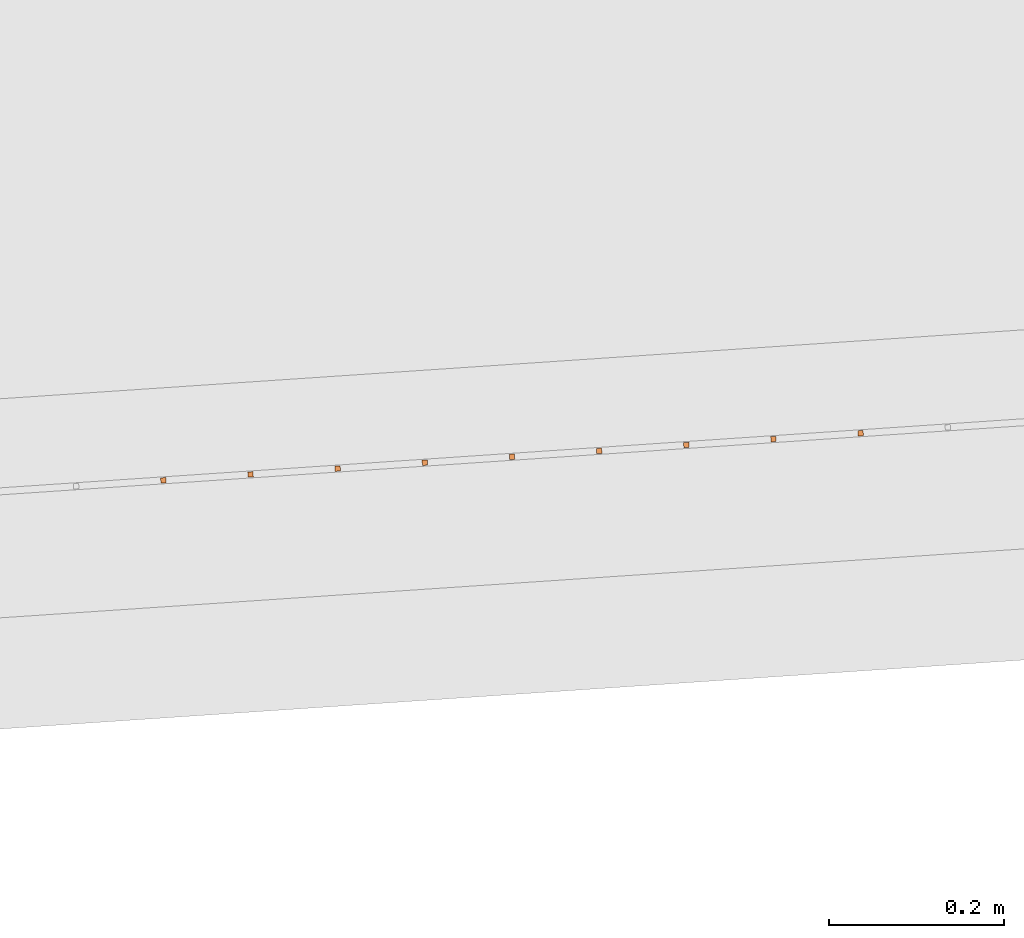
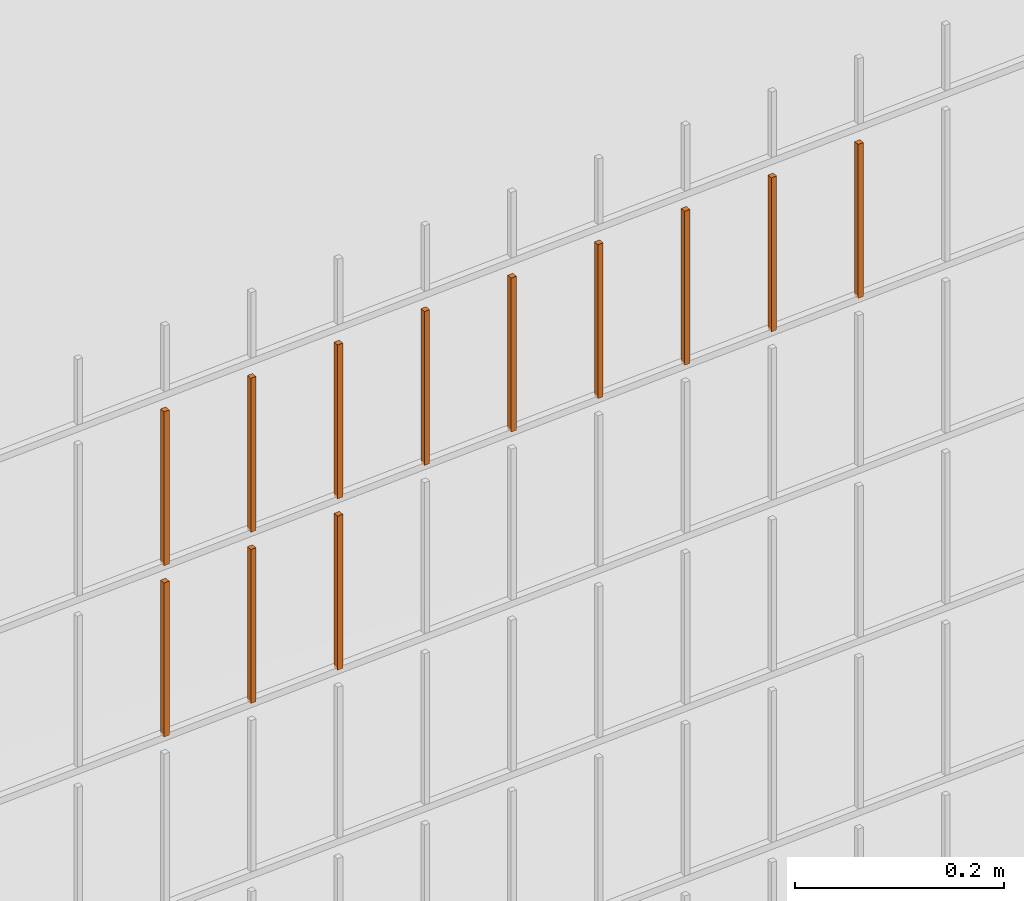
# One storey, part 333 of 1809: 12 proxies, 1 element without a shape of its own.
"""IFC2X3 building model written with IfcOpenShell, lengths in millimetres."""

from ifc_helpers import new_model, entity, si_unit, converted_unit, derived_unit, money_unit, direction, frame, origin_with_axes, place, context, subcontext, project, spatial, faceted_brep, source, transform, mapped, material, type_object, element, aggregate, save


model = new_model("IFC2X3")

# Units and contexts
model_context = context("Model", 3, precision=0.01, world=origin_with_axes(), true_north=direction((0.0, 1.0)))
body_context = subcontext(model_context, "Body", "Model", "MODEL_VIEW")
ifc_project = project(units=[si_unit("LENGTHUNIT", "METRE", prefix="MILLI"), si_unit("AREAUNIT", "SQUARE_METRE"), si_unit("VOLUMEUNIT", "CUBIC_METRE"), converted_unit("PLANEANGLEUNIT", "DEGREE", entity("IfcPlaneAngleMeasure", 0.0174532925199), si_unit("PLANEANGLEUNIT", "RADIAN"), dimensions=[0, 0, 0, 0, 0, 0, 0]), si_unit("SOLIDANGLEUNIT", "STERADIAN"), money_unit("EUR"), converted_unit("TIMEUNIT", "Year", entity("IfcTimeMeasure", 31556926.0), si_unit("TIMEUNIT", "SECOND"), dimensions=[0, 0, 1, 0, 0, 0, 0]), si_unit("MASSUNIT", "GRAM", prefix="KILO"), si_unit("THERMODYNAMICTEMPERATUREUNIT", "DEGREE_CELSIUS"), si_unit("LUMINOUSINTENSITYUNIT", "LUMEN"), si_unit("ENERGYUNIT", "JOULE", prefix="MEGA"), derived_unit("THERMALCONDUCTANCEUNIT", [(si_unit("POWERUNIT", "WATT"), 1), (si_unit("LENGTHUNIT", "METRE"), -1), (si_unit("THERMODYNAMICTEMPERATUREUNIT", "KELVIN"), -1)]), derived_unit("SPECIFICHEATCAPACITYUNIT", [(si_unit("ENERGYUNIT", "JOULE"), 1), (si_unit("MASSUNIT", "GRAM", prefix="KILO"), -1), (si_unit("THERMODYNAMICTEMPERATUREUNIT", "KELVIN"), -1)]), derived_unit("MASSDENSITYUNIT", [(si_unit("MASSUNIT", "GRAM", prefix="KILO"), 1), (si_unit("VOLUMEUNIT", "CUBIC_METRE"), -1)])], contexts=[model_context])

# Site, building, storey
site_placement = place(None, origin_with_axes())
site = spatial("IfcSite", under=ifc_project, at=site_placement, Name="Politse- ja Piirivalveameti ning Päästeameti ühishoone", CompositionType="ELEMENT")
building_placement = place(site_placement, origin_with_axes())
building = spatial("IfcBuilding", under=site, at=building_placement, Name="Politse- ja Piirivalveameti ning Päästeameti ühishoone", CompositionType="ELEMENT")
storey_placement = place(building_placement, origin_with_axes())
storey = spatial("IfcBuildingStorey", under=building, at=storey_placement, Name="Esimene korrus", CompositionType="ELEMENT", Elevation=0.0)

# Proxies
building_element_proxy_type_1 = type_object("IfcBuildingElementProxyType", Name="Railing Type", PredefinedType="NOTDEFINED")
proxy_1_placement = place(storey_placement, frame((89252.001212, -29183.4766571, 203.661247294), z_axis=(0.0, 0.0, 1.0), x_axis=(1.0, 0.0, 0.0)))
proxy_1 = element("IfcBuildingElementProxy", 1, at=proxy_1_placement, inside=storey, type_object=building_element_proxy_type_1, Name="PIIRDEAED")
ifc_material = material(Name="ET-03_Raud")
building_element_proxy_type_2 = type_object("IfcBuildingElementProxyType", Name="IfcBuildingElementProxy", PredefinedType="NOTDEFINED")
shared_shape_1 = source(origin_with_axes(), body_context, "Body", "Brep", [
    faceted_brep([(3.0, 3.0, -0.000752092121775), (-3.0, 3.0, -0.000752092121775), (-3.0, 3.0, 179.99926046), (3.0, 3.0, 179.99926046), (3.0, -3.0, 0.000752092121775), (-3.0, -3.0, 0.000752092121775), (-3.0, -3.0, 180.000764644), (3.0, -3.0, 180.000764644)], [[[0, 1, 2, 3]], [[0, 4, 5, 1]], [[1, 5, 6, 2]], [[3, 2, 6, 7]], [[4, 0, 3, 7]], [[5, 4, 7, 6]]]),
])
proxy_2_placement = place(proxy_1_placement, frame((-33650.011364, -19570.7060387, 1818.77919341), z_axis=(0.0, 0.0, 1.0), x_axis=(1.0, 0.0, 0.0)))
proxy_2 = element("IfcBuildingElementProxy", 2, at=proxy_2_placement, type_object=building_element_proxy_type_2, material=ifc_material, Name="BALUSTER - 001", context=body_context, shape_type="MappedRepresentation", body=[
    mapped(shared_shape_1, transform((0.0, 0.0, 0.0), x_axis=(-0.0673926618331, 0.997726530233, 0.0), y_axis=(-0.997726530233, -0.0673926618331, 0.0), z_axis=(0.0, 0.0, 1.0))),
])
shared_shape_2 = source(origin_with_axes(), body_context, "Body", "Brep", [
    faceted_brep([(3.0, 3.0, -0.000752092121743), (-3.0, 3.0, -0.000752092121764), (-3.0, 3.0, 179.99926046), (3.0, 3.0, 179.99926046), (3.0, -3.0, 0.000752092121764), (-3.0, -3.0, 0.000752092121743), (-3.0, -3.0, 180.000764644), (3.0, -3.0, 180.000764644)], [[[0, 1, 2, 3]], [[0, 4, 5, 1]], [[1, 5, 6, 2]], [[3, 2, 6, 7]], [[4, 0, 3, 7]], [[5, 4, 7, 6]]]),
])
proxy_3_placement = place(proxy_1_placement, frame((-33949.3293231, -19590.9238372, 1618.70398419), z_axis=(0.0, 0.0, 1.0), x_axis=(1.0, 0.0, 0.0)))
proxy_3 = element("IfcBuildingElementProxy", 3, at=proxy_3_placement, type_object=building_element_proxy_type_2, material=ifc_material, Name="BALUSTER - 001", context=body_context, shape_type="MappedRepresentation", body=[
    mapped(shared_shape_2, transform((0.0, 0.0, 0.0), x_axis=(-0.0673926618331, 0.997726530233, 0.0), y_axis=(-0.997726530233, -0.0673926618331, 0.0), z_axis=(0.0, 0.0, 1.0))),
])
shared_shape_3 = source(origin_with_axes(), body_context, "Body", "Brep", [
    faceted_brep([(3.0, 3.0, -0.000752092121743), (-3.0, 3.0, -0.000752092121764), (-3.0, 3.0, 179.99926046), (3.0, 3.0, 179.99926046), (3.0, -3.0, 0.000752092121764), (-3.0, -3.0, 0.000752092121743), (-3.0, -3.0, 180.000764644), (3.0, -3.0, 180.000764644)], [[[0, 1, 2, 3]], [[0, 4, 5, 1]], [[1, 5, 6, 2]], [[3, 2, 6, 7]], [[4, 0, 3, 7]], [[5, 4, 7, 6]]]),
])
proxy_4_placement = place(proxy_1_placement, frame((-33949.3293231, -19590.9238372, 1818.70398419), z_axis=(0.0, 0.0, 1.0), x_axis=(1.0, 0.0, 0.0)))
proxy_4 = element("IfcBuildingElementProxy", 4, at=proxy_4_placement, type_object=building_element_proxy_type_2, material=ifc_material, Name="BALUSTER - 001", context=body_context, shape_type="MappedRepresentation", body=[
    mapped(shared_shape_3, transform((0.0, 0.0, 0.0), x_axis=(-0.0673926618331, 0.997726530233, 0.0), y_axis=(-0.997726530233, -0.0673926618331, 0.0), z_axis=(0.0, 0.0, 1.0))),
])
shared_shape_4 = source(origin_with_axes(), body_context, "Body", "Brep", [
    faceted_brep([(3.0, 3.0, -0.000752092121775), (-3.0, 3.0, -0.000752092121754), (-3.0, 3.0, 179.99926046), (3.0, 3.0, 179.99926046), (3.0, -3.0, 0.000752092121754), (-3.0, -3.0, 0.000752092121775), (-3.0, -3.0, 180.000764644), (3.0, -3.0, 180.000764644)], [[[0, 1, 2, 3]], [[0, 4, 5, 1]], [[1, 5, 6, 2]], [[3, 2, 6, 7]], [[4, 0, 3, 7]], [[5, 4, 7, 6]]]),
])
proxy_5_placement = place(proxy_1_placement, frame((-34049.1019761, -19597.6631034, 1618.67891446), z_axis=(0.0, 0.0, 1.0), x_axis=(1.0, 0.0, 0.0)))
proxy_5 = element("IfcBuildingElementProxy", 5, at=proxy_5_placement, type_object=building_element_proxy_type_2, material=ifc_material, Name="BALUSTER - 001", context=body_context, shape_type="MappedRepresentation", body=[
    mapped(shared_shape_4, transform((0.0, 0.0, 0.0), x_axis=(-0.0673926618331, 0.997726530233, 0.0), y_axis=(-0.997726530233, -0.0673926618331, 0.0), z_axis=(0.0, 0.0, 1.0))),
])
shared_shape_5 = source(origin_with_axes(), body_context, "Body", "Brep", [
    faceted_brep([(3.0, 3.0, -0.000752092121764), (-3.0, 3.0, -0.000752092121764), (-3.0, 3.0, 179.99926046), (3.0, 3.0, 179.99926046), (3.0, -3.0, 0.000752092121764), (-3.0, -3.0, 0.000752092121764), (-3.0, -3.0, 180.000764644), (3.0, -3.0, 180.000764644)], [[[0, 1, 2, 3]], [[0, 4, 5, 1]], [[1, 5, 6, 2]], [[3, 2, 6, 7]], [[4, 0, 3, 7]], [[5, 4, 7, 6]]]),
])
proxy_6_placement = place(proxy_1_placement, frame((-33849.5566701, -19584.1845711, 1818.72905393), z_axis=(0.0, 0.0, 1.0), x_axis=(1.0, 0.0, 0.0)))
proxy_6 = element("IfcBuildingElementProxy", 6, at=proxy_6_placement, type_object=building_element_proxy_type_2, material=ifc_material, Name="BALUSTER - 001", context=body_context, shape_type="MappedRepresentation", body=[
    mapped(shared_shape_5, transform((0.0, 0.0, 0.0), x_axis=(-0.0673926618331, 0.997726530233, 0.0), y_axis=(-0.997726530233, -0.0673926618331, 0.0), z_axis=(0.0, 0.0, 1.0))),
])
shared_shape_6 = source(origin_with_axes(), body_context, "Body", "Brep", [
    faceted_brep([(3.0, 3.0, -0.000752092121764), (-3.0, 3.0, -0.000752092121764), (-3.0, 3.0, 179.99926046), (3.0, 3.0, 179.99926046), (3.0, -3.0, 0.000752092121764), (-3.0, -3.0, 0.000752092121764), (-3.0, -3.0, 180.000764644), (3.0, -3.0, 180.000764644)], [[[0, 1, 2, 3]], [[0, 4, 5, 1]], [[1, 5, 6, 2]], [[3, 2, 6, 7]], [[4, 0, 3, 7]], [[5, 4, 7, 6]]]),
])
proxy_7_placement = place(proxy_1_placement, frame((-33450.466058, -19557.2275063, 1818.82933288), z_axis=(0.0, 0.0, 1.0), x_axis=(1.0, 0.0, 0.0)))
proxy_7 = element("IfcBuildingElementProxy", 7, at=proxy_7_placement, type_object=building_element_proxy_type_2, material=ifc_material, Name="BALUSTER - 001", context=body_context, shape_type="MappedRepresentation", body=[
    mapped(shared_shape_6, transform((0.0, 0.0, 0.0), x_axis=(-0.0673926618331, 0.997726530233, 0.0), y_axis=(-0.997726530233, -0.0673926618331, 0.0), z_axis=(0.0, 0.0, 1.0))),
])
shared_shape_7 = source(origin_with_axes(), body_context, "Body", "Brep", [
    faceted_brep([(3.0, 3.0, -0.000752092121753), (-3.0, 3.0, -0.000752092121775), (-3.0, 3.0, 179.99926046), (3.0, 3.0, 179.99926046), (3.0, -3.0, 0.000752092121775), (-3.0, -3.0, 0.000752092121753), (-3.0, -3.0, 180.000764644), (3.0, -3.0, 180.000764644)], [[[0, 1, 2, 3]], [[0, 4, 5, 1]], [[1, 5, 6, 2]], [[3, 2, 6, 7]], [[4, 0, 3, 7]], [[5, 4, 7, 6]]]),
])
proxy_8_placement = place(proxy_1_placement, frame((-34148.8746292, -19604.4023696, 1818.65384472), z_axis=(0.0, 0.0, 1.0), x_axis=(1.0, 0.0, 0.0)))
proxy_8 = element("IfcBuildingElementProxy", 8, at=proxy_8_placement, type_object=building_element_proxy_type_2, material=ifc_material, Name="BALUSTER - 001", context=body_context, shape_type="MappedRepresentation", body=[
    mapped(shared_shape_7, transform((0.0, 0.0, 0.0), x_axis=(-0.0673926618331, 0.997726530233, 0.0), y_axis=(-0.997726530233, -0.0673926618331, 0.0), z_axis=(0.0, 0.0, 1.0))),
])
shared_shape_8 = source(origin_with_axes(), body_context, "Body", "Brep", [
    faceted_brep([(3.0, 3.0, -0.000752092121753), (-3.0, 3.0, -0.000752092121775), (-3.0, 3.0, 179.99926046), (3.0, 3.0, 179.99926046), (3.0, -3.0, 0.000752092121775), (-3.0, -3.0, 0.000752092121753), (-3.0, -3.0, 180.000764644), (3.0, -3.0, 180.000764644)], [[[0, 1, 2, 3]], [[0, 4, 5, 1]], [[1, 5, 6, 2]], [[3, 2, 6, 7]], [[4, 0, 3, 7]], [[5, 4, 7, 6]]]),
])
proxy_9_placement = place(proxy_1_placement, frame((-34148.8746292, -19604.4023696, 1618.65384472), z_axis=(0.0, 0.0, 1.0), x_axis=(1.0, 0.0, 0.0)))
proxy_9 = element("IfcBuildingElementProxy", 9, at=proxy_9_placement, type_object=building_element_proxy_type_2, material=ifc_material, Name="BALUSTER - 001", context=body_context, shape_type="MappedRepresentation", body=[
    mapped(shared_shape_8, transform((0.0, 0.0, 0.0), x_axis=(-0.0673926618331, 0.997726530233, 0.0), y_axis=(-0.997726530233, -0.0673926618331, 0.0), z_axis=(0.0, 0.0, 1.0))),
])
shared_shape_9 = source(origin_with_axes(), body_context, "Body", "Brep", [
    faceted_brep([(3.0, 3.0, -0.000752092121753), (-3.0, 3.0, -0.000752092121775), (-3.0, 3.0, 179.99926046), (3.0, 3.0, 179.99926046), (3.0, -3.0, 0.000752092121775), (-3.0, -3.0, 0.000752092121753), (-3.0, -3.0, 180.000764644), (3.0, -3.0, 180.000764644)], [[[0, 1, 2, 3]], [[0, 4, 5, 1]], [[1, 5, 6, 2]], [[3, 2, 6, 7]], [[4, 0, 3, 7]], [[5, 4, 7, 6]]]),
])
proxy_10_placement = place(proxy_1_placement, frame((-33350.693405, -19550.4882401, 1818.85440262), z_axis=(0.0, 0.0, 1.0), x_axis=(1.0, 0.0, 0.0)))
proxy_10 = element("IfcBuildingElementProxy", 10, at=proxy_10_placement, type_object=building_element_proxy_type_2, material=ifc_material, Name="BALUSTER - 001", context=body_context, shape_type="MappedRepresentation", body=[
    mapped(shared_shape_9, transform((0.0, 0.0, 0.0), x_axis=(-0.0673926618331, 0.997726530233, 0.0), y_axis=(-0.997726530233, -0.0673926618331, 0.0), z_axis=(0.0, 0.0, 1.0))),
])
shared_shape_10 = source(origin_with_axes(), body_context, "Body", "Brep", [
    faceted_brep([(3.0, 3.0, -0.000752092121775), (-3.0, 3.0, -0.000752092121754), (-3.0, 3.0, 179.99926046), (3.0, 3.0, 179.99926046), (3.0, -3.0, 0.000752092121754), (-3.0, -3.0, 0.000752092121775), (-3.0, -3.0, 180.000764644), (3.0, -3.0, 180.000764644)], [[[0, 1, 2, 3]], [[0, 4, 5, 1]], [[1, 5, 6, 2]], [[3, 2, 6, 7]], [[4, 0, 3, 7]], [[5, 4, 7, 6]]]),
])
proxy_11_placement = place(proxy_1_placement, frame((-33749.7840171, -19577.4453049, 1818.75412367), z_axis=(0.0, 0.0, 1.0), x_axis=(1.0, 0.0, 0.0)))
proxy_11 = element("IfcBuildingElementProxy", 11, at=proxy_11_placement, type_object=building_element_proxy_type_2, material=ifc_material, Name="BALUSTER - 001", context=body_context, shape_type="MappedRepresentation", body=[
    mapped(shared_shape_10, transform((0.0, 0.0, 0.0), x_axis=(-0.0673926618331, 0.997726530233, 0.0), y_axis=(-0.997726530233, -0.0673926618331, 0.0), z_axis=(0.0, 0.0, 1.0))),
])
shared_shape_11 = source(origin_with_axes(), body_context, "Body", "Brep", [
    faceted_brep([(3.0, 3.0, -0.000752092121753), (-3.0, 3.0, -0.000752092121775), (-3.0, 3.0, 179.99926046), (3.0, 3.0, 179.99926046), (3.0, -3.0, 0.000752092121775), (-3.0, -3.0, 0.000752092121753), (-3.0, -3.0, 180.000764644), (3.0, -3.0, 180.000764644)], [[[0, 1, 2, 3]], [[0, 4, 5, 1]], [[1, 5, 6, 2]], [[3, 2, 6, 7]], [[4, 0, 3, 7]], [[5, 4, 7, 6]]]),
])
proxy_12_placement = place(proxy_1_placement, frame((-33550.238711, -19563.9667725, 1818.80426314), z_axis=(0.0, 0.0, 1.0), x_axis=(1.0, 0.0, 0.0)))
proxy_12 = element("IfcBuildingElementProxy", 12, at=proxy_12_placement, type_object=building_element_proxy_type_2, material=ifc_material, Name="BALUSTER - 001", context=body_context, shape_type="MappedRepresentation", body=[
    mapped(shared_shape_11, transform((0.0, 0.0, 0.0), x_axis=(-0.0673926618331, 0.997726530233, 0.0), y_axis=(-0.997726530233, -0.0673926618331, 0.0), z_axis=(0.0, 0.0, 1.0))),
])
shared_shape_12 = source(origin_with_axes(), body_context, "Body", "Brep", [
    faceted_brep([(3.0, 3.0, -0.000752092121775), (-3.0, 3.0, -0.000752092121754), (-3.0, 3.0, 179.99926046), (3.0, 3.0, 179.99926046), (3.0, -3.0, 0.000752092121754), (-3.0, -3.0, 0.000752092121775), (-3.0, -3.0, 180.000764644), (3.0, -3.0, 180.000764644)], [[[0, 1, 2, 3]], [[0, 4, 5, 1]], [[1, 5, 6, 2]], [[3, 2, 6, 7]], [[4, 0, 3, 7]], [[5, 4, 7, 6]]]),
])
proxy_13_placement = place(proxy_1_placement, frame((-34049.1019761, -19597.6631034, 1818.67891446), z_axis=(0.0, 0.0, 1.0), x_axis=(1.0, 0.0, 0.0)))
proxy_13 = element("IfcBuildingElementProxy", 13, at=proxy_13_placement, type_object=building_element_proxy_type_2, material=ifc_material, Name="BALUSTER - 001", context=body_context, shape_type="MappedRepresentation", body=[
    mapped(shared_shape_12, transform((0.0, 0.0, 0.0), x_axis=(-0.0673926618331, 0.997726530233, 0.0), y_axis=(-0.997726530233, -0.0673926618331, 0.0), z_axis=(0.0, 0.0, 1.0))),
])
aggregate(proxy_1, [proxy_3, proxy_5, proxy_9, proxy_10, proxy_7, proxy_12, proxy_2, proxy_11, proxy_6, proxy_4, proxy_13, proxy_8])

save(model, "model.ifc")
